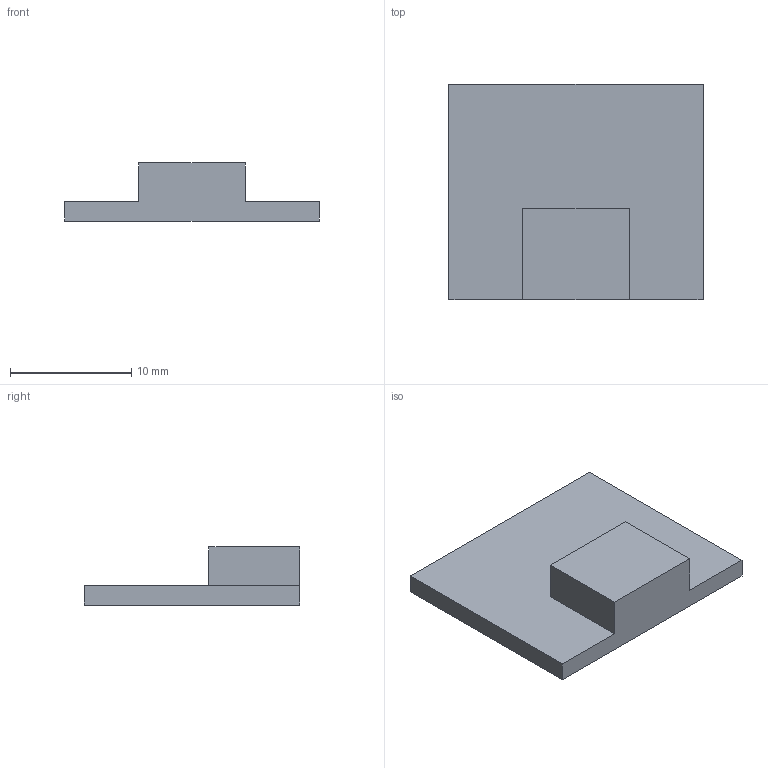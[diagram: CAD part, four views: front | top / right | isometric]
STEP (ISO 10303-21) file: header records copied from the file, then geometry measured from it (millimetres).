
FILE_DESCRIPTION(('Open CASCADE Model'),'2;1');
FILE_NAME('Open CASCADE Shape Model','2026-09-10T23:36:52',('Author'),( 'Open CASCADE'),'Open CASCADE STEP processor 7.9','Open CASCADE 7.9' ,'Unknown');
FILE_SCHEMA(('AUTOMOTIVE_DESIGN { 1 0 10303 214 1 1 1 1 }'));
Length unit declared in the file: millimetre
Products named in the file (1): Open CASCADE STEP translator 7.9 30
Bounding box: 21 x 17.8 x 4.8 mm (x, y, z)
Volume: 809.3 mm3; surface area: 976.1 mm2
Topology: 1 solids, 1 shells, 10 faces, 24 edges, 16 vertices
Faces by surface type: plane 10
Entity records: 610 total; most frequent: CARTESIAN_POINT 99, DIRECTION 94, LINE 72, VECTOR 72, ORIENTED_EDGE 48, PCURVE 48, DEFINITIONAL_REPRESENTATION 48, EDGE_CURVE 24
